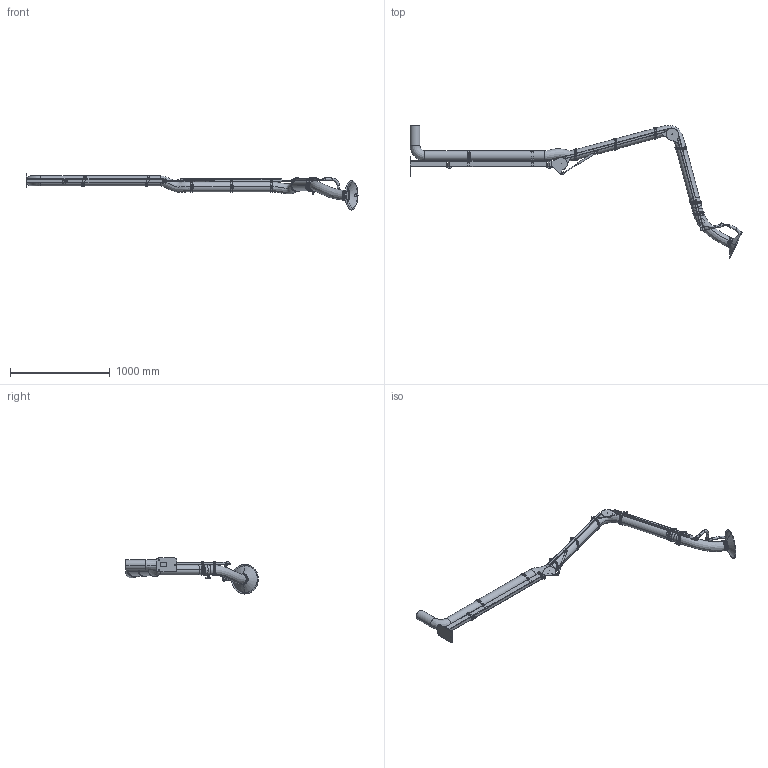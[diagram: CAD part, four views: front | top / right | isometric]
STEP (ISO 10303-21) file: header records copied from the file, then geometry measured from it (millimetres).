
FILE_DESCRIPTION((''),'2;1');
FILE_NAME('PSR_4000-100_D_EXD','2022-10-04T13:33:24',('Tomas Bellgran'),(''),'CREO PARAMETRIC BY PTC INC, 2018260','CREO PARAMETRIC BY PTC INC, 2018260','');
FILE_SCHEMA(('AUTOMOTIVE_DESIGN { 1 0 10303 214 1 1 1 1 }'));
Length unit declared in the file: millimetre
Products named in the file (43): 141558; 141580; 141581; 122701; 141514; 141560; 141582; 141587; 141524; 121391; 131150_LIGHT; 139380_LIGHT; 131151_LIGHT; 131170_LIGHT; 144356; 141589; 134343_AF0; G_P136_WELD-REF; 141590; 120626; 122750_LIGHT; 122717_LIGHT; 120127_COMPL_LIGHT; 130317; ROD_STAB_8-160-REF; 131095; 130322_AF10; 131145; 131205; 122291; 122295; 131215; 131219; 131220; 131200; 147064_EXD; 121078; 124460; 107521-11; 117586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
Assembly tree (61 placements, depth 4):
  PSR_4000-100_D_EXD
    141514
      141558
      141580
      141581
      122701
    141524
      141560
      141582
      141587
    121391  x4
    131150_LIGHT
    131170_LIGHT
      139380_LIGHT
      131151_LIGHT
    144356  x2
    141590
      141589
      134343_AF0
      G_P136_WELD-REF
    120626
    122750_LIGHT
    122717_LIGHT
    120127_COMPL_LIGHT  x2
    130322_AF10
      130317
      ROD_STAB_8-160-REF
      131095  x2
    131145  x2
    131200
      131205
      122295
        122291
      131220
        131215
        131219
    147064_EXD
    121078
    124460  x6
    107521-11  x6
    131138  x2
      117586
    107520-100  x2
Bounding box: 3333.14 x 1334.51 x 362.95 mm (x, y, z)
Volume: 39549610.7 mm3; surface area: 2571262.8 mm2
Topology: 52 solids, 52 shells, 1425 faces, 3393 edges, 2078 vertices
Faces by surface type: plane 580, cylinder 412, bspline 330, cone 48, extrusion 20, torus 18, revolution 13, sphere 4
Entity records: 50002 total; most frequent: CARTESIAN_POINT 18253, DIRECTION 3988, ORIENTED_EDGE 3924, PRESENTATION_STYLE_ASSIGNMENT 2616, STYLED_ITEM 2593, CURVE_STYLE 1985, EDGE_CURVE 1962, AXIS2_PLACEMENT_3D 1506
